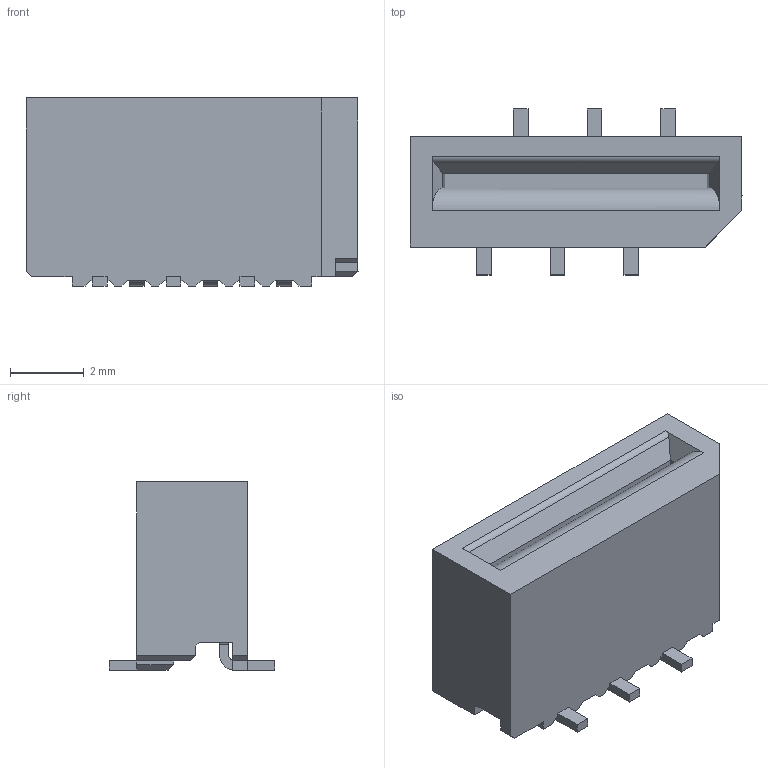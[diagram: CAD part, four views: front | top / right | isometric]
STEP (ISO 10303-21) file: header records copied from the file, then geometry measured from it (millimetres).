
FILE_DESCRIPTION (( 'STEP AP214' ), '1' );
FILE_NAME ('006232106506.STEP', '2023-07-26T08:02:51', ( '' ), ( '' ), 'SwSTEP 2.0', 'SolidWorks 2021', '' );
FILE_SCHEMA (( 'AUTOMOTIVE_DESIGN' ));
Length unit declared in the file: millimetre
Products named in the file (1): 006232106506
Bounding box: 9 x 4.5 x 5.1 mm (x, y, z)
Volume: 112.5 mm3; surface area: 251.6 mm2
Topology: 1 solids, 1 shells, 176 faces, 521 edges, 347 vertices
Faces by surface type: plane 159, cylinder 17
Entity records: 5862 total; most frequent: CARTESIAN_POINT 1144, ORIENTED_EDGE 1042, DIRECTION 872, EDGE_CURVE 521, LINE 458, VECTOR 458, VERTEX_POINT 347, AXIS2_PLACEMENT_3D 207
